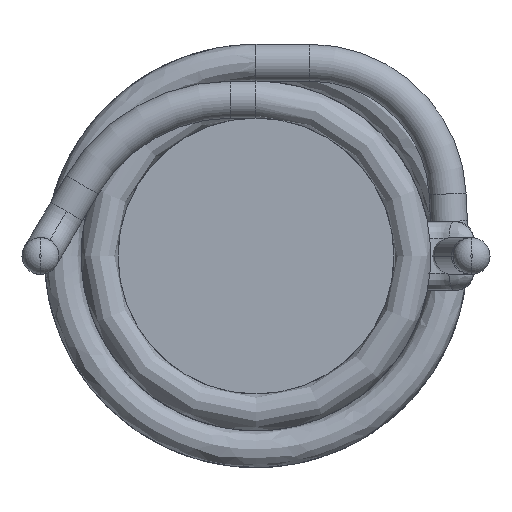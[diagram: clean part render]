
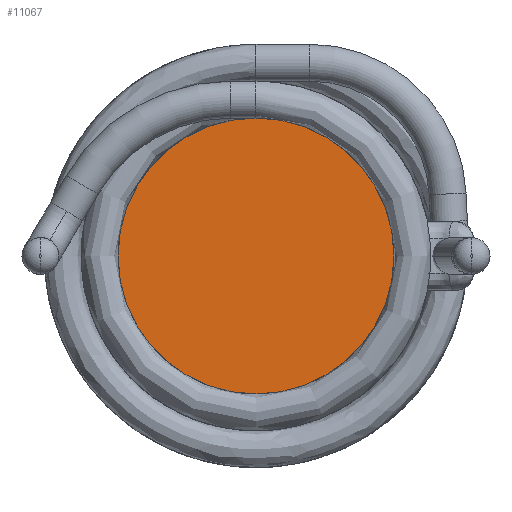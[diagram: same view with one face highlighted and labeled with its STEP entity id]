
A CAD part, front view. The second image highlights one B-rep face of the part: STEP entity #11067.
In plain terms, the highlighted planar face has unit normal (0, -1, 0).
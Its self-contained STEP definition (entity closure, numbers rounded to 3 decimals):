
#42 = FACE_OUTER_BOUND ( 'NONE', #10866, .T. ) ;
#49 = DIRECTION ( 'NONE',  ( 0., 1., 0. ) ) ;
#142 = CARTESIAN_POINT ( 'NONE',  ( 0., 0., -4. ) ) ;
#285 = AXIS2_PLACEMENT_3D ( 'NONE', #4615, #2341, #3863 ) ;
#470 = ORIENTED_EDGE ( 'NONE', *, *, #9907, .F. ) ;
#1164 = CIRCLE ( 'NONE', #5595, 4. ) ;
#2195 = DIRECTION ( 'NONE',  ( 0., 1., 0. ) ) ;
#2341 = DIRECTION ( 'NONE',  ( 0., 1., 0. ) ) ;
#2749 = VERTEX_POINT ( 'NONE', #142 ) ;
#2975 = DIRECTION ( 'NONE',  ( 0., 0., 1. ) ) ;
#3863 = DIRECTION ( 'NONE',  ( 0., 0., 1. ) ) ;
#4047 = PLANE ( 'NONE',  #285 ) ;
#4615 = CARTESIAN_POINT ( 'NONE',  ( 0., 0., 0. ) ) ;
#4622 = CARTESIAN_POINT ( 'NONE',  ( 0., 0., 0. ) ) ;
#5595 = AXIS2_PLACEMENT_3D ( 'NONE', #4622, #49, #7844 ) ;
#5611 = CARTESIAN_POINT ( 'NONE',  ( 0., 0., 0. ) ) ;
#7167 = CIRCLE ( 'NONE', #8417, 4. ) ;
#7844 = DIRECTION ( 'NONE',  ( 0., 0., 1. ) ) ;
#8417 = AXIS2_PLACEMENT_3D ( 'NONE', #5611, #2195, #2975 ) ;
#9741 = CARTESIAN_POINT ( 'NONE',  ( 0., 0., 4. ) ) ;
#9907 = EDGE_CURVE ( 'NONE', #10511, #2749, #7167, .T. ) ;
#10381 = ORIENTED_EDGE ( 'NONE', *, *, #11313, .F. ) ;
#10511 = VERTEX_POINT ( 'NONE', #9741 ) ;
#10866 = EDGE_LOOP ( 'NONE', ( #10381, #470 ) ) ;
#11067 = ADVANCED_FACE ( 'NONE', ( #42 ), #4047, .F. ) ;
#11313 = EDGE_CURVE ( 'NONE', #2749, #10511, #1164, .T. ) ;
